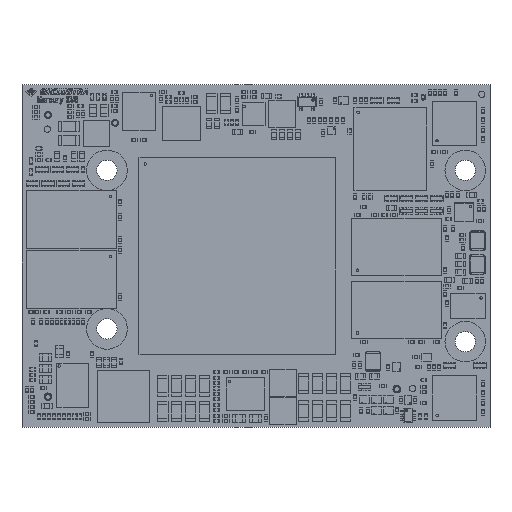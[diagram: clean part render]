
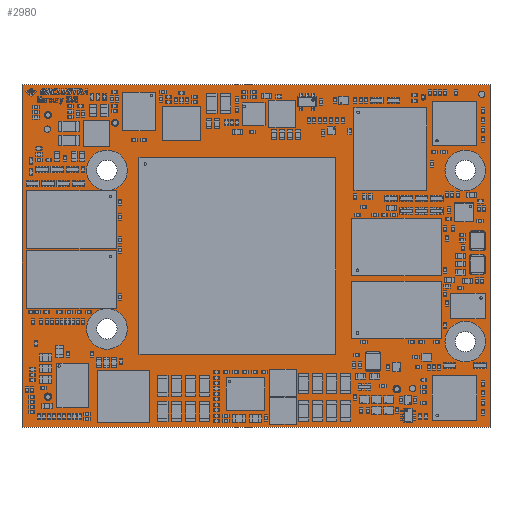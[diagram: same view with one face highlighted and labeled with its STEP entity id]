
A CAD part, top view. The second image highlights one B-rep face of the part: STEP entity #2980.
In plain terms, the highlighted planar face has unit normal (0, 0, 1).
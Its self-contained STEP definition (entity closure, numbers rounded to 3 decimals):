
#2491 = VERTEX_POINT('',#2492);
#2492 = CARTESIAN_POINT('',(0.,0.,0.));
#2498 = EDGE_CURVE('',#2491,#2499,#2501,.T.);
#2499 = VERTEX_POINT('',#2500);
#2500 = CARTESIAN_POINT('',(73.8,0.,0.));
#2501 = LINE('',#2502,#2503);
#2502 = CARTESIAN_POINT('',(0.,0.,0.));
#2503 = VECTOR('',#2504,1.);
#2504 = DIRECTION('',(1.,0.,0.));
#2529 = EDGE_CURVE('',#2499,#2530,#2532,.T.);
#2530 = VERTEX_POINT('',#2531);
#2531 = CARTESIAN_POINT('',(73.8,54.,0.));
#2532 = LINE('',#2533,#2534);
#2533 = CARTESIAN_POINT('',(73.8,0.,0.));
#2534 = VECTOR('',#2535,1.);
#2535 = DIRECTION('',(0.,1.,0.));
#2560 = EDGE_CURVE('',#2530,#2561,#2563,.T.);
#2561 = VERTEX_POINT('',#2562);
#2562 = CARTESIAN_POINT('',(0.,54.,0.));
#2563 = LINE('',#2564,#2565);
#2564 = CARTESIAN_POINT('',(73.8,54.,0.));
#2565 = VECTOR('',#2566,1.);
#2566 = DIRECTION('',(-1.,0.,0.));
#2591 = EDGE_CURVE('',#2561,#2491,#2592,.T.);
#2592 = LINE('',#2593,#2594);
#2593 = CARTESIAN_POINT('',(0.,54.,0.));
#2594 = VECTOR('',#2595,1.);
#2595 = DIRECTION('',(0.,-1.,0.));
#2615 = VERTEX_POINT('',#2616);
#2616 = CARTESIAN_POINT('',(4.7,4.8,0.));
#2622 = EDGE_CURVE('',#2615,#2615,#2623,.T.);
#2623 = CIRCLE('',#2624,0.6);
#2624 = AXIS2_PLACEMENT_3D('',#2625,#2626,#2627);
#2625 = CARTESIAN_POINT('',(4.1,4.8,0.));
#2626 = DIRECTION('',(0.,0.,1.));
#2627 = DIRECTION('',(1.,0.,0.));
#2648 = VERTEX_POINT('',#2649);
#2649 = CARTESIAN_POINT('',(15.,15.5,0.));
#2655 = EDGE_CURVE('',#2648,#2648,#2656,.T.);
#2656 = CIRCLE('',#2657,1.6);
#2657 = AXIS2_PLACEMENT_3D('',#2658,#2659,#2660);
#2658 = CARTESIAN_POINT('',(13.4,15.5,0.));
#2659 = DIRECTION('',(0.,0.,1.));
#2660 = DIRECTION('',(1.,0.,0.));
#2681 = VERTEX_POINT('',#2682);
#2682 = CARTESIAN_POINT('',(4.65,49.2,0.));
#2688 = EDGE_CURVE('',#2681,#2681,#2689,.T.);
#2689 = CIRCLE('',#2690,0.55);
#2690 = AXIS2_PLACEMENT_3D('',#2691,#2692,#2693);
#2691 = CARTESIAN_POINT('',(4.1,49.2,0.));
#2692 = DIRECTION('',(0.,0.,1.));
#2693 = DIRECTION('',(1.,0.,0.));
#2714 = VERTEX_POINT('',#2715);
#2715 = CARTESIAN_POINT('',(15.,40.5,0.));
#2721 = EDGE_CURVE('',#2714,#2714,#2722,.T.);
#2722 = CIRCLE('',#2723,1.6);
#2723 = AXIS2_PLACEMENT_3D('',#2724,#2725,#2726);
#2724 = CARTESIAN_POINT('',(13.4,40.5,0.));
#2725 = DIRECTION('',(0.,0.,1.));
#2726 = DIRECTION('',(1.,0.,0.));
#2747 = VERTEX_POINT('',#2748);
#2748 = CARTESIAN_POINT('',(15.25,48.,0.));
#2754 = EDGE_CURVE('',#2747,#2747,#2755,.T.);
#2755 = CIRCLE('',#2756,0.55);
#2756 = AXIS2_PLACEMENT_3D('',#2757,#2758,#2759);
#2757 = CARTESIAN_POINT('',(14.7,48.,0.));
#2758 = DIRECTION('',(0.,0.,1.));
#2759 = DIRECTION('',(1.,0.,0.));
#2780 = VERTEX_POINT('',#2781);
#2781 = CARTESIAN_POINT('',(15.25,6.,0.));
#2787 = EDGE_CURVE('',#2780,#2780,#2788,.T.);
#2788 = CIRCLE('',#2789,0.55);
#2789 = AXIS2_PLACEMENT_3D('',#2790,#2791,#2792);
#2790 = CARTESIAN_POINT('',(14.7,6.,0.));
#2791 = DIRECTION('',(0.,0.,1.));
#2792 = DIRECTION('',(1.,0.,0.));
#2813 = VERTEX_POINT('',#2814);
#2814 = CARTESIAN_POINT('',(59.7,6.,0.));
#2820 = EDGE_CURVE('',#2813,#2813,#2821,.T.);
#2821 = CIRCLE('',#2822,0.6);
#2822 = AXIS2_PLACEMENT_3D('',#2823,#2824,#2825);
#2823 = CARTESIAN_POINT('',(59.1,6.,0.));
#2824 = DIRECTION('',(0.,0.,1.));
#2825 = DIRECTION('',(1.,0.,0.));
#2846 = VERTEX_POINT('',#2847);
#2847 = CARTESIAN_POINT('',(59.7,48.,0.));
#2853 = EDGE_CURVE('',#2846,#2846,#2854,.T.);
#2854 = CIRCLE('',#2855,0.6);
#2855 = AXIS2_PLACEMENT_3D('',#2856,#2857,#2858);
#2856 = CARTESIAN_POINT('',(59.1,48.,0.));
#2857 = DIRECTION('',(0.,0.,1.));
#2858 = DIRECTION('',(1.,0.,0.));
#2879 = VERTEX_POINT('',#2880);
#2880 = CARTESIAN_POINT('',(71.5,13.5,0.));
#2886 = EDGE_CURVE('',#2879,#2879,#2887,.T.);
#2887 = CIRCLE('',#2888,1.6);
#2888 = AXIS2_PLACEMENT_3D('',#2889,#2890,#2891);
#2889 = CARTESIAN_POINT('',(69.9,13.5,0.));
#2890 = DIRECTION('',(0.,0.,1.));
#2891 = DIRECTION('',(1.,0.,0.));
#2912 = VERTEX_POINT('',#2913);
#2913 = CARTESIAN_POINT('',(71.5,40.5,0.));
#2919 = EDGE_CURVE('',#2912,#2912,#2920,.T.);
#2920 = CIRCLE('',#2921,1.6);
#2921 = AXIS2_PLACEMENT_3D('',#2922,#2923,#2924);
#2922 = CARTESIAN_POINT('',(69.9,40.5,0.));
#2923 = DIRECTION('',(0.,0.,1.));
#2924 = DIRECTION('',(1.,0.,0.));
#2980 = ADVANCED_FACE('',(#2981,#2987,#2990,#2993,#2996,#2999,#3002,
    #3005,#3008,#3011,#3014),#3017,.F.);
#2981 = FACE_BOUND('',#2982,.T.);
#2982 = EDGE_LOOP('',(#2983,#2984,#2985,#2986));
#2983 = ORIENTED_EDGE('',*,*,#2498,.T.);
#2984 = ORIENTED_EDGE('',*,*,#2529,.T.);
#2985 = ORIENTED_EDGE('',*,*,#2560,.T.);
#2986 = ORIENTED_EDGE('',*,*,#2591,.T.);
#2987 = FACE_BOUND('',#2988,.F.);
#2988 = EDGE_LOOP('',(#2989));
#2989 = ORIENTED_EDGE('',*,*,#2622,.T.);
#2990 = FACE_BOUND('',#2991,.F.);
#2991 = EDGE_LOOP('',(#2992));
#2992 = ORIENTED_EDGE('',*,*,#2655,.T.);
#2993 = FACE_BOUND('',#2994,.F.);
#2994 = EDGE_LOOP('',(#2995));
#2995 = ORIENTED_EDGE('',*,*,#2688,.T.);
#2996 = FACE_BOUND('',#2997,.F.);
#2997 = EDGE_LOOP('',(#2998));
#2998 = ORIENTED_EDGE('',*,*,#2721,.T.);
#2999 = FACE_BOUND('',#3000,.F.);
#3000 = EDGE_LOOP('',(#3001));
#3001 = ORIENTED_EDGE('',*,*,#2754,.T.);
#3002 = FACE_BOUND('',#3003,.F.);
#3003 = EDGE_LOOP('',(#3004));
#3004 = ORIENTED_EDGE('',*,*,#2787,.T.);
#3005 = FACE_BOUND('',#3006,.F.);
#3006 = EDGE_LOOP('',(#3007));
#3007 = ORIENTED_EDGE('',*,*,#2820,.T.);
#3008 = FACE_BOUND('',#3009,.F.);
#3009 = EDGE_LOOP('',(#3010));
#3010 = ORIENTED_EDGE('',*,*,#2853,.T.);
#3011 = FACE_BOUND('',#3012,.F.);
#3012 = EDGE_LOOP('',(#3013));
#3013 = ORIENTED_EDGE('',*,*,#2886,.T.);
#3014 = FACE_BOUND('',#3015,.F.);
#3015 = EDGE_LOOP('',(#3016));
#3016 = ORIENTED_EDGE('',*,*,#2919,.T.);
#3017 = PLANE('',#3018);
#3018 = AXIS2_PLACEMENT_3D('',#3019,#3020,#3021);
#3019 = CARTESIAN_POINT('',(0.,0.,0.));
#3020 = DIRECTION('',(0.,0.,-1.));
#3021 = DIRECTION('',(-1.,0.,0.));
